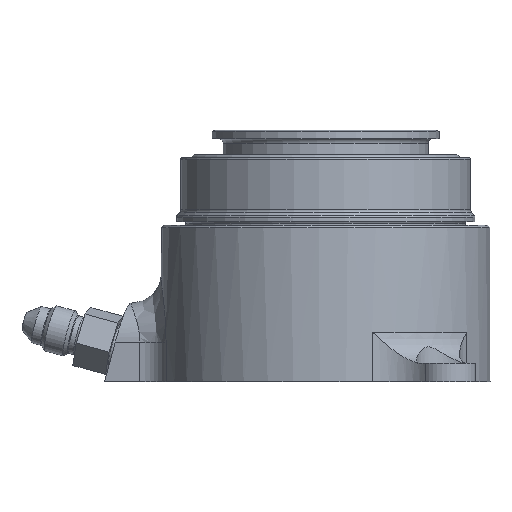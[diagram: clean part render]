
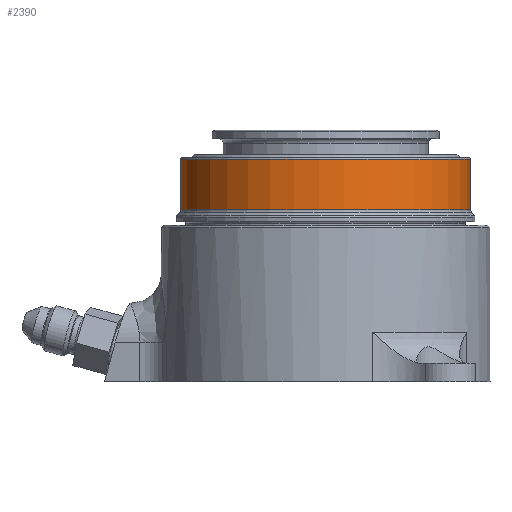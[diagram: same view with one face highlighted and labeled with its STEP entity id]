
A CAD part, left-side view. The second image highlights one B-rep face of the part: STEP entity #2390.
In plain terms, the highlighted cylindrical face has radius 29.591 mm (diameter 59.182 mm), a full revolution.
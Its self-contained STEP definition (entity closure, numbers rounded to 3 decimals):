
#92=CYLINDRICAL_SURFACE('',#2575,29.591);
#462=ORIENTED_EDGE('',*,*,#725,.F.);
#463=ORIENTED_EDGE('',*,*,#727,.T.);
#725=EDGE_CURVE('',#887,#887,#1017,.T.);
#727=EDGE_CURVE('',#889,#889,#1019,.T.);
#887=VERTEX_POINT('',#3711);
#889=VERTEX_POINT('',#3716);
#1017=CIRCLE('',#2557,29.591);
#1019=CIRCLE('',#2560,29.591);
#1162=EDGE_LOOP('',(#462));
#1163=EDGE_LOOP('',(#463));
#1362=FACE_BOUND('',#1162,.T.);
#1363=FACE_BOUND('',#1163,.T.);
#2390=ADVANCED_FACE('',(#1362,#1363),#92,.T.);
#2557=AXIS2_PLACEMENT_3D('',#3710,#2917,#2918);
#2560=AXIS2_PLACEMENT_3D('',#3715,#2923,#2924);
#2575=AXIS2_PLACEMENT_3D('',#3738,#2953,#2954);
#2917=DIRECTION('',(0.,0.,-1.));
#2918=DIRECTION('',(-0.539,-0.842,0.));
#2923=DIRECTION('',(0.,0.,-1.));
#2924=DIRECTION('',(-0.539,-0.842,0.));
#2953=DIRECTION('',(0.,0.,-1.));
#2954=DIRECTION('',(-0.539,-0.842,0.));
#3710=CARTESIAN_POINT('',(0.,0.,59.251));
#3711=CARTESIAN_POINT('',(-15.947,-24.926,59.251));
#3715=CARTESIAN_POINT('',(0.,0.,69.545));
#3716=CARTESIAN_POINT('',(-15.947,-24.926,69.545));
#3738=CARTESIAN_POINT('',(0.,0.,-26.022));
